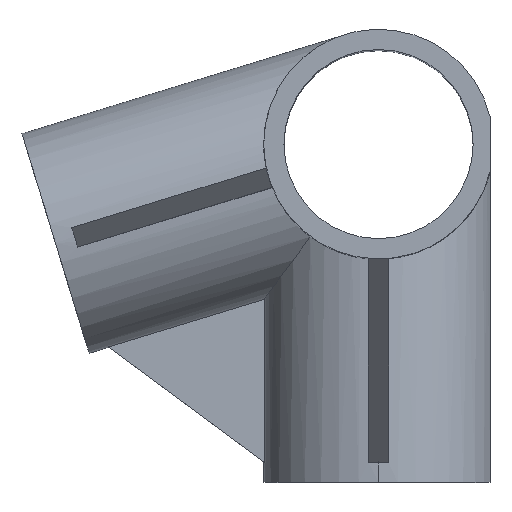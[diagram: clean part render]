
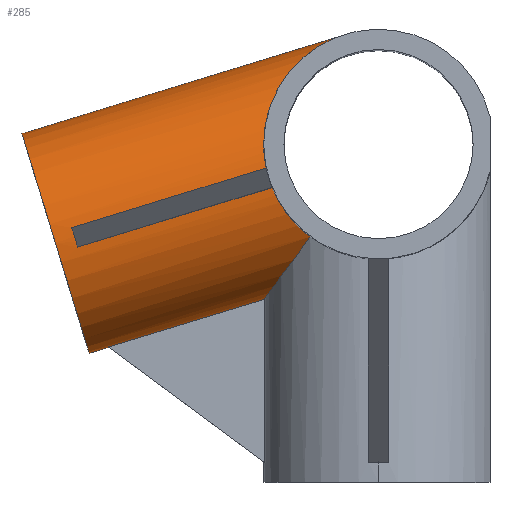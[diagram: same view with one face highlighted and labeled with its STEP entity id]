
A CAD part, top view. The second image highlights one B-rep face of the part: STEP entity #285.
In plain terms, the highlighted cylindrical face has radius 17 mm (diameter 34 mm), a partial arc.
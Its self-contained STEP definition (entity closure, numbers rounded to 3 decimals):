
#11 = EDGE_CURVE ( 'NONE', #257, #816, #830, .T. ) ;
#12 = CARTESIAN_POINT ( 'NONE',  ( -40.042, -29.95, 1.5 ) ) ;
#13 =( BOUNDED_CURVE ( )  B_SPLINE_CURVE ( 3, ( #750, #297, #663, #533 ),
 .UNSPECIFIED., .F., .T. ) 
 B_SPLINE_CURVE_WITH_KNOTS ( ( 4, 4 ),
 ( 3.23, 3.438 ),
 .UNSPECIFIED. ) 
 CURVE ( )  GEOMETRIC_REPRESENTATION_ITEM ( )  RATIONAL_B_SPLINE_CURVE ( ( 1., 0.996, 0.996, 1. ) ) 
 REPRESENTATION_ITEM ( '' )  );
#26 = EDGE_CURVE ( 'NONE', #245, #526, #676, .T. ) ;
#51 = CARTESIAN_POINT ( 'NONE',  ( -10.112, -13.666, 13.666 ) ) ;
#54 = CARTESIAN_POINT ( 'NONE',  ( -45.448, -12.326, 16.934 ) ) ;
#66 = DIRECTION ( 'NONE',  ( 0.956, 0.292, 0. ) ) ;
#69 = VERTEX_POINT ( 'NONE', #581 ) ;
#95 = CARTESIAN_POINT ( 'NONE',  ( -40.042, -29.95, 1.5 ) ) ;
#100 = CARTESIAN_POINT ( 'NONE',  ( -39.976, -29.999, 0. ) ) ;
#101 =( BOUNDED_CURVE ( )  B_SPLINE_CURVE ( 3, ( #54, #1068, #626, #893 ),
 .UNSPECIFIED., .F., .T. ) 
 B_SPLINE_CURVE_WITH_KNOTS ( ( 4, 4 ),
 ( 6.195, 6.372 ),
 .UNSPECIFIED. ) 
 CURVE ( )  GEOMETRIC_REPRESENTATION_ITEM ( )  RATIONAL_B_SPLINE_CURVE ( ( 1., 0.997, 0.997, 1. ) ) 
 REPRESENTATION_ITEM ( '' )  );
#106 = CARTESIAN_POINT ( 'NONE',  ( -44.571, -15.195, 16.934 ) ) ;
#124 = LINE ( 'NONE', #864, #812 ) ;
#159 = CARTESIAN_POINT ( 'NONE',  ( -10.112, -13.666, 13.666 ) ) ;
#163 = VERTEX_POINT ( 'NONE', #621 ) ;
#166 = EDGE_CURVE ( 'NONE', #69, #163, #1071, .T. ) ;
#193 = CARTESIAN_POINT ( 'NONE',  ( -47.815, -14.619, 0. ) ) ;
#204 = VERTEX_POINT ( 'NONE', #726 ) ;
#213 = CARTESIAN_POINT ( 'NONE',  ( -16.498, -22.296, 6.42 ) ) ;
#237 = EDGE_LOOP ( 'NONE', ( #1118, #410, #638, #939, #548, #991, #254, #567, #929, #407, #1022, #776 ) ) ;
#245 = VERTEX_POINT ( 'NONE', #159 ) ;
#254 = ORIENTED_EDGE ( 'NONE', *, *, #481, .T. ) ;
#257 = VERTEX_POINT ( 'NONE', #906 ) ;
#267 = CARTESIAN_POINT ( 'NONE',  ( -42.845, -30.876, 0. ) ) ;
#285 = ADVANCED_FACE ( 'NONE', ( #823 ), #463, .T. ) ;
#297 = CARTESIAN_POINT ( 'NONE',  ( -16.877, -2.359, 16.829 ) ) ;
#305 = CARTESIAN_POINT ( 'NONE',  ( -17., 7.755, 13.99 ) ) ;
#310 = CARTESIAN_POINT ( 'NONE',  ( -47.377, -16.053, 16.934 ) ) ;
#325 = DIRECTION ( 'NONE',  ( -0.956, -0.292, 0. ) ) ;
#353 = VECTOR ( 'NONE', #793, 1000. ) ;
#356 = EDGE_CURVE ( 'NONE', #257, #69, #1085, .T. ) ;
#367 = DIRECTION ( 'NONE',  ( 0.956, 0.292, 0. ) ) ;
#375 = CARTESIAN_POINT ( 'NONE',  ( -15.755, -6.385, 16.934 ) ) ;
#379 = DIRECTION ( 'NONE',  ( -0.292, 0.956, 0. ) ) ;
#407 = ORIENTED_EDGE ( 'NONE', *, *, #751, .T. ) ;
#410 = ORIENTED_EDGE ( 'NONE', *, *, #11, .T. ) ;
#422 = CARTESIAN_POINT ( 'NONE',  ( -42.864, -30.812, 1.5 ) ) ;
#430 = LINE ( 'NONE', #422, #353 ) ;
#451 = CARTESIAN_POINT ( 'NONE',  ( -39.998, -29.982, 1.001 ) ) ;
#452 = CARTESIAN_POINT ( 'NONE',  ( -47.815, -14.619, 0. ) ) ;
#463 = CYLINDRICAL_SURFACE ( 'NONE', #1160, 17. ) ;
#465 = EDGE_CURVE ( 'NONE', #977, #596, #124, .T. ) ;
#473 = EDGE_CURVE ( 'NONE', #204, #163, #838, .T. ) ;
#474 = CARTESIAN_POINT ( 'NONE',  ( -39.976, -29.999, 0. ) ) ;
#481 = EDGE_CURVE ( 'NONE', #1130, #1132, #1134, .T. ) ;
#526 = VERTEX_POINT ( 'NONE', #784 ) ;
#533 = CARTESIAN_POINT ( 'NONE',  ( -17., 0., 16.257 ) ) ;
#547 =( BOUNDED_CURVE ( )  B_SPLINE_CURVE ( 3, ( #1006, #1017, #1188, #915 ),
 .UNSPECIFIED., .F., .T. ) 
 B_SPLINE_CURVE_WITH_KNOTS ( ( 4, 4 ),
 ( 2.505, 3.053 ),
 .UNSPECIFIED. ) 
 CURVE ( )  GEOMETRIC_REPRESENTATION_ITEM ( )  RATIONAL_B_SPLINE_CURVE ( ( 1., 0.975, 0.975, 1. ) ) 
 REPRESENTATION_ITEM ( '' )  );
#548 = ORIENTED_EDGE ( 'NONE', *, *, #26, .F. ) ;
#567 = ORIENTED_EDGE ( 'NONE', *, *, #964, .F. ) ;
#573 = CARTESIAN_POINT ( 'NONE',  ( -16.934, -22.885, 1.5 ) ) ;
#581 = CARTESIAN_POINT ( 'NONE',  ( -52.786, 1.639, 0. ) ) ;
#591 = VECTOR ( 'NONE', #1016, 1000. ) ;
#596 = VERTEX_POINT ( 'NONE', #882 ) ;
#621 = CARTESIAN_POINT ( 'NONE',  ( -4.97, 16.257, 0. ) ) ;
#626 = CARTESIAN_POINT ( 'NONE',  ( -44.779, -14.214, 17.022 ) ) ;
#638 = ORIENTED_EDGE ( 'NONE', *, *, #678, .F. ) ;
#646 = CARTESIAN_POINT ( 'NONE',  ( -39.976, -29.999, 0.501 ) ) ;
#663 = CARTESIAN_POINT ( 'NONE',  ( -17., -1.183, 16.603 ) ) ;
#676 =( BOUNDED_CURVE ( )  B_SPLINE_CURVE ( 3, ( #51, #1059, #213, #573 ),
 .UNSPECIFIED., .F., .T. ) 
 B_SPLINE_CURVE_WITH_KNOTS ( ( 4, 4 ),
 ( 2.208, 3.053 ),
 .UNSPECIFIED. ) 
 CURVE ( )  GEOMETRIC_REPRESENTATION_ITEM ( )  RATIONAL_B_SPLINE_CURVE ( ( 1., 0.941, 0.941, 1. ) ) 
 REPRESENTATION_ITEM ( '' )  );
#678 = EDGE_CURVE ( 'NONE', #697, #816, #1135, .T. ) ;
#692 = DIRECTION ( 'NONE',  ( -0.956, -0.292, 0. ) ) ;
#697 = VERTEX_POINT ( 'NONE', #12 ) ;
#707 = CARTESIAN_POINT ( 'NONE',  ( -16.632, -3.516, 16.934 ) ) ;
#716 = VECTOR ( 'NONE', #692, 1000. ) ;
#726 = CARTESIAN_POINT ( 'NONE',  ( -17., 0., 16.257 ) ) ;
#736 = DIRECTION ( 'NONE',  ( -0.956, -0.292, 0. ) ) ;
#750 = CARTESIAN_POINT ( 'NONE',  ( -16.632, -3.516, 16.934 ) ) ;
#751 = EDGE_CURVE ( 'NONE', #977, #204, #13, .T. ) ;
#765 = CARTESIAN_POINT ( 'NONE',  ( -12.387, 13.99, 7.755 ) ) ;
#776 = ORIENTED_EDGE ( 'NONE', *, *, #166, .F. ) ;
#784 = CARTESIAN_POINT ( 'NONE',  ( -16.934, -22.885, 1.5 ) ) ;
#793 = DIRECTION ( 'NONE',  ( -0.956, -0.292, 0. ) ) ;
#804 = CARTESIAN_POINT ( 'NONE',  ( -52.786, 1.639, 0. ) ) ;
#812 = VECTOR ( 'NONE', #325, 1000. ) ;
#816 = VERTEX_POINT ( 'NONE', #474 ) ;
#823 = FACE_OUTER_BOUND ( 'NONE', #237, .T. ) ;
#830 = LINE ( 'NONE', #267, #591 ) ;
#838 =( BOUNDED_CURVE ( )  B_SPLINE_CURVE ( 3, ( #1148, #305, #765, #967 ),
 .UNSPECIFIED., .F., .T. ) 
 B_SPLINE_CURVE_WITH_KNOTS ( ( 4, 4 ),
 ( 3.438, 4.712 ),
 .UNSPECIFIED. ) 
 CURVE ( )  GEOMETRIC_REPRESENTATION_ITEM ( )  RATIONAL_B_SPLINE_CURVE ( ( 1., 0.869, 0.869, 1. ) ) 
 REPRESENTATION_ITEM ( '' )  );
#864 = CARTESIAN_POINT ( 'NONE',  ( -48.254, -13.184, 16.934 ) ) ;
#882 = CARTESIAN_POINT ( 'NONE',  ( -45.448, -12.326, 16.934 ) ) ;
#893 = CARTESIAN_POINT ( 'NONE',  ( -44.571, -15.195, 16.934 ) ) ;
#906 = CARTESIAN_POINT ( 'NONE',  ( -42.845, -30.876, 0. ) ) ;
#915 = CARTESIAN_POINT ( 'NONE',  ( -15.755, -6.385, 16.934 ) ) ;
#929 = ORIENTED_EDGE ( 'NONE', *, *, #465, .F. ) ;
#932 = DIRECTION ( 'NONE',  ( 0.292, -0.956, 0. ) ) ;
#939 = ORIENTED_EDGE ( 'NONE', *, *, #1000, .F. ) ;
#964 = EDGE_CURVE ( 'NONE', #596, #1132, #101, .T. ) ;
#967 = CARTESIAN_POINT ( 'NONE',  ( -4.97, 16.257, 0. ) ) ;
#969 = AXIS2_PLACEMENT_3D ( 'NONE', #452, #736, #932 ) ;
#977 = VERTEX_POINT ( 'NONE', #707 ) ;
#991 = ORIENTED_EDGE ( 'NONE', *, *, #1066, .T. ) ;
#1000 = EDGE_CURVE ( 'NONE', #526, #697, #430, .T. ) ;
#1005 = VECTOR ( 'NONE', #66, 1000. ) ;
#1006 = CARTESIAN_POINT ( 'NONE',  ( -10.112, -13.666, 13.666 ) ) ;
#1016 = DIRECTION ( 'NONE',  ( 0.956, 0.292, 0. ) ) ;
#1017 = CARTESIAN_POINT ( 'NONE',  ( -12.643, -11.793, 15.539 ) ) ;
#1022 = ORIENTED_EDGE ( 'NONE', *, *, #473, .T. ) ;
#1059 = CARTESIAN_POINT ( 'NONE',  ( -14.082, -19.031, 10.728 ) ) ;
#1066 = EDGE_CURVE ( 'NONE', #245, #1130, #547, .T. ) ;
#1068 = CARTESIAN_POINT ( 'NONE',  ( -45.072, -13.256, 17.022 ) ) ;
#1071 = LINE ( 'NONE', #804, #1005 ) ;
#1085 = CIRCLE ( 'NONE', #969, 17. ) ;
#1118 = ORIENTED_EDGE ( 'NONE', *, *, #356, .F. ) ;
#1130 = VERTEX_POINT ( 'NONE', #375 ) ;
#1132 = VERTEX_POINT ( 'NONE', #106 ) ;
#1134 = LINE ( 'NONE', #310, #716 ) ;
#1135 =( BOUNDED_CURVE ( )  B_SPLINE_CURVE ( 3, ( #95, #451, #646, #100 ),
 .UNSPECIFIED., .F., .T. ) 
 B_SPLINE_CURVE_WITH_KNOTS ( ( 4, 4 ),
 ( 6.195, 6.283 ),
 .UNSPECIFIED. ) 
 CURVE ( )  GEOMETRIC_REPRESENTATION_ITEM ( )  RATIONAL_B_SPLINE_CURVE ( ( 1., 0.999, 0.999, 1. ) ) 
 REPRESENTATION_ITEM ( '' )  );
#1148 = CARTESIAN_POINT ( 'NONE',  ( -17., 0., 16.257 ) ) ;
#1160 = AXIS2_PLACEMENT_3D ( 'NONE', #193, #367, #379 ) ;
#1188 = CARTESIAN_POINT ( 'NONE',  ( -14.572, -9.304, 16.656 ) ) ;
